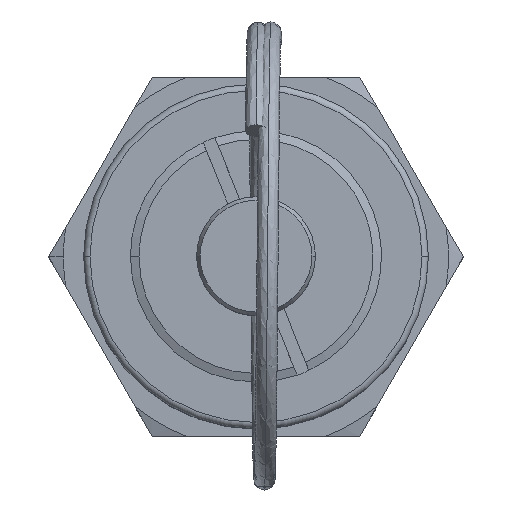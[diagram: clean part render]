
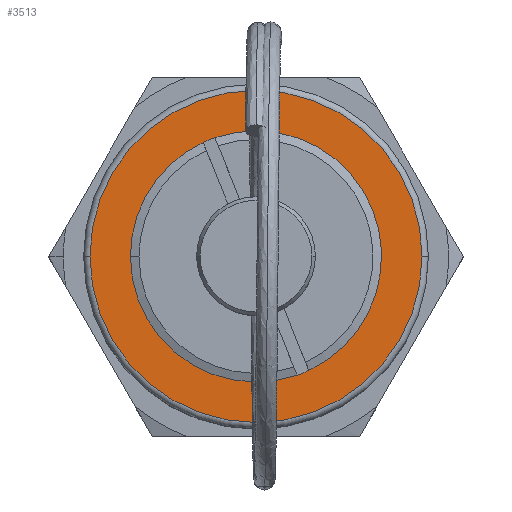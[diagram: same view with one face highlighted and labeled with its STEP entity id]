
A CAD part, top view. The second image highlights one B-rep face of the part: STEP entity #3513.
In plain terms, the highlighted planar face has unit normal (0, 0, 1).
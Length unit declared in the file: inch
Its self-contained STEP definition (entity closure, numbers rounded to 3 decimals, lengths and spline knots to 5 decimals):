
#133 = VERTEX_POINT ( 'NONE', #9206 ) ;
#422 = CARTESIAN_POINT ( 'NONE',  ( -0.06431, 0.18587, 0. ) ) ;
#503 = CARTESIAN_POINT ( 'NONE',  ( 0., 0., 0. ) ) ;
#620 = CIRCLE ( 'NONE', #9450, 0.19669 ) ;
#793 = ORIENTED_EDGE ( 'NONE', *, *, #9958, .T. ) ;
#1044 = CIRCLE ( 'NONE', #9358, 0.19669 ) ;
#1133 = DIRECTION ( 'NONE',  ( 0., 0., -1. ) ) ;
#1207 = CIRCLE ( 'NONE', #5453, 0.26 ) ;
#1612 = DIRECTION ( 'NONE',  ( -1., 0., 0. ) ) ;
#1752 = CIRCLE ( 'NONE', #2074, 0.19669 ) ;
#1853 = CIRCLE ( 'NONE', #3498, 0.19669 ) ;
#1984 = DIRECTION ( 'NONE',  ( -1., 0., 0. ) ) ;
#2074 = AXIS2_PLACEMENT_3D ( 'NONE', #2665, #6596, #2560 ) ;
#2323 = EDGE_CURVE ( 'NONE', #133, #6316, #1207, .T. ) ;
#2332 = CARTESIAN_POINT ( 'NONE',  ( -0.26, 0., 0. ) ) ;
#2370 = EDGE_CURVE ( 'NONE', #4149, #3815, #1853, .T. ) ;
#2384 = CARTESIAN_POINT ( 'NONE',  ( 0., 0., 0. ) ) ;
#2560 = DIRECTION ( 'NONE',  ( -1., 0., 0. ) ) ;
#2577 = CIRCLE ( 'NONE', #8281, 0.26 ) ;
#2665 = CARTESIAN_POINT ( 'NONE',  ( 0., 0., 0. ) ) ;
#2696 = ORIENTED_EDGE ( 'NONE', *, *, #7689, .T. ) ;
#2723 = CARTESIAN_POINT ( 'NONE',  ( -0.08286, 0.17838, 0. ) ) ;
#2862 = CARTESIAN_POINT ( 'NONE',  ( 0.06431, -0.18587, 0. ) ) ;
#2895 = CIRCLE ( 'NONE', #9927, 0.19669 ) ;
#2955 = DIRECTION ( 'NONE',  ( 0., 0., 1. ) ) ;
#2958 = DIRECTION ( 'NONE',  ( -1., 0., 0. ) ) ;
#3003 = VERTEX_POINT ( 'NONE', #2723 ) ;
#3069 = EDGE_CURVE ( 'NONE', #5284, #3003, #1044, .T. ) ;
#3498 = AXIS2_PLACEMENT_3D ( 'NONE', #5967, #5265, #9097 ) ;
#3513 = ADVANCED_FACE ( 'NONE', ( #5377, #8487 ), #3594, .F. ) ;
#3594 = PLANE ( 'NONE',  #6575 ) ;
#3763 = EDGE_LOOP ( 'NONE', ( #793, #8511 ) ) ;
#3815 = VERTEX_POINT ( 'NONE', #4873 ) ;
#3895 = EDGE_CURVE ( 'NONE', #3003, #4149, #2895, .T. ) ;
#4036 = DIRECTION ( 'NONE',  ( 0., 0., 1. ) ) ;
#4149 = VERTEX_POINT ( 'NONE', #422 ) ;
#4495 = DIRECTION ( 'NONE',  ( 0., 0., -1. ) ) ;
#4510 = EDGE_CURVE ( 'NONE', #8673, #5284, #1752, .T. ) ;
#4567 = EDGE_LOOP ( 'NONE', ( #8184, #9407, #2696, #4781, #8038 ) ) ;
#4781 = ORIENTED_EDGE ( 'NONE', *, *, #4510, .T. ) ;
#4873 = CARTESIAN_POINT ( 'NONE',  ( 0.08286, -0.17838, 0. ) ) ;
#5130 = CARTESIAN_POINT ( 'NONE',  ( 0., 0., 0. ) ) ;
#5133 = DIRECTION ( 'NONE',  ( -1., 0., 0. ) ) ;
#5265 = DIRECTION ( 'NONE',  ( 0., 0., -1. ) ) ;
#5284 = VERTEX_POINT ( 'NONE', #6473 ) ;
#5377 = FACE_OUTER_BOUND ( 'NONE', #3763, .T. ) ;
#5453 = AXIS2_PLACEMENT_3D ( 'NONE', #9000, #2955, #1984 ) ;
#5931 = DIRECTION ( 'NONE',  ( 0., 0., -1. ) ) ;
#5967 = CARTESIAN_POINT ( 'NONE',  ( 0., 0., 0. ) ) ;
#6316 = VERTEX_POINT ( 'NONE', #2332 ) ;
#6473 = CARTESIAN_POINT ( 'NONE',  ( -0.19669, 0., 0. ) ) ;
#6575 = AXIS2_PLACEMENT_3D ( 'NONE', #9831, #5931, #7513 ) ;
#6596 = DIRECTION ( 'NONE',  ( 0., 0., -1. ) ) ;
#7513 = DIRECTION ( 'NONE',  ( -1., 0., 0. ) ) ;
#7689 = EDGE_CURVE ( 'NONE', #3815, #8673, #620, .T. ) ;
#8038 = ORIENTED_EDGE ( 'NONE', *, *, #3069, .T. ) ;
#8184 = ORIENTED_EDGE ( 'NONE', *, *, #3895, .T. ) ;
#8281 = AXIS2_PLACEMENT_3D ( 'NONE', #2384, #4036, #1612 ) ;
#8487 = FACE_BOUND ( 'NONE', #4567, .T. ) ;
#8511 = ORIENTED_EDGE ( 'NONE', *, *, #2323, .T. ) ;
#8673 = VERTEX_POINT ( 'NONE', #2862 ) ;
#8813 = CARTESIAN_POINT ( 'NONE',  ( 0., 0., 0. ) ) ;
#9000 = CARTESIAN_POINT ( 'NONE',  ( 0., 0., 0. ) ) ;
#9097 = DIRECTION ( 'NONE',  ( -1., 0., 0. ) ) ;
#9204 = DIRECTION ( 'NONE',  ( 0., 0., -1. ) ) ;
#9206 = CARTESIAN_POINT ( 'NONE',  ( 0.26, 0., 0. ) ) ;
#9358 = AXIS2_PLACEMENT_3D ( 'NONE', #8813, #1133, #5133 ) ;
#9407 = ORIENTED_EDGE ( 'NONE', *, *, #2370, .T. ) ;
#9450 = AXIS2_PLACEMENT_3D ( 'NONE', #5130, #9204, #10032 ) ;
#9831 = CARTESIAN_POINT ( 'NONE',  ( 0., 0., 0. ) ) ;
#9927 = AXIS2_PLACEMENT_3D ( 'NONE', #503, #4495, #2958 ) ;
#9958 = EDGE_CURVE ( 'NONE', #6316, #133, #2577, .T. ) ;
#10032 = DIRECTION ( 'NONE',  ( -1., 0., 0. ) ) ;
